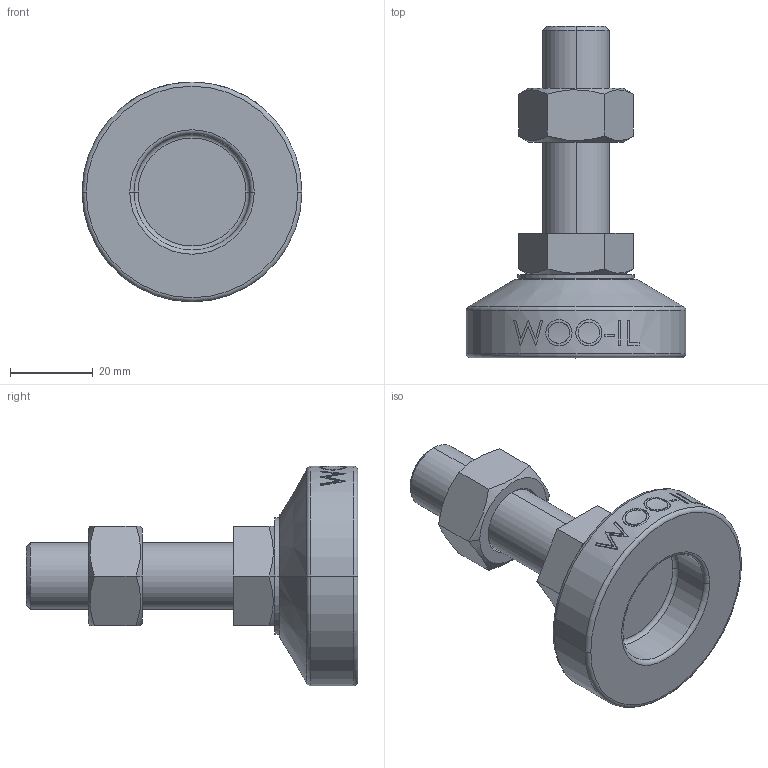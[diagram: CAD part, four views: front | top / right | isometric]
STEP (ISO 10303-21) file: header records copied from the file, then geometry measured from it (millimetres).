
FILE_DESCRIPTION (( 'STEP AP214' ), '1' );
FILE_NAME ('MFZ53-M16-50.step', '2021-01-15T07:05:03', ( '' ), ( '' ), 'SwSTEP 2.0', 'SolidWorks 2019', '' );
FILE_SCHEMA (( 'AUTOMOTIVE_DESIGN' ));
Length unit declared in the file: millimetre
Products named in the file (2): MFZ53-M16-50
Bounding box: 53 x 80 x 53 mm (x, y, z)
Volume: 48828.6 mm3; surface area: 14001.2 mm2
Topology: 3 solids, 3 shells, 106 faces, 243 edges, 154 vertices
Faces by surface type: plane 48, cylinder 18, bspline 16, cone 14, torus 10
Entity records: 4508 total; most frequent: CARTESIAN_POINT 2165, ORIENTED_EDGE 486, DIRECTION 439, EDGE_CURVE 243, AXIS2_PLACEMENT_3D 170, VERTEX_POINT 154, EDGE_LOOP 119, FACE_OUTER_BOUND 106
